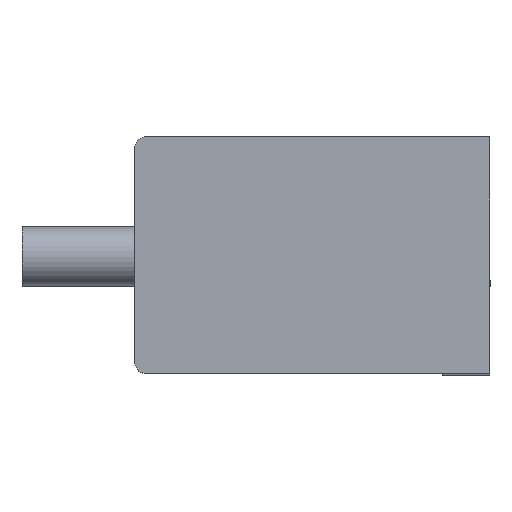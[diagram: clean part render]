
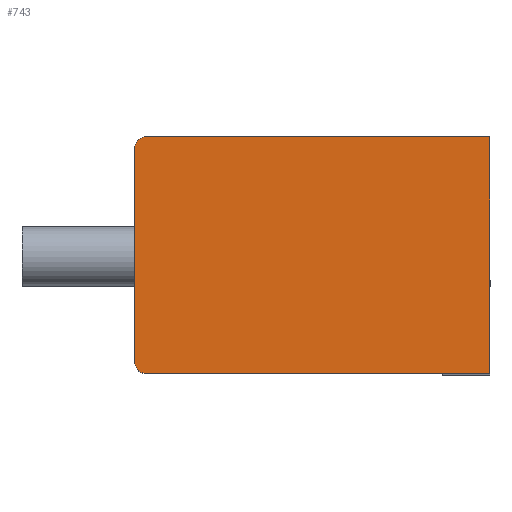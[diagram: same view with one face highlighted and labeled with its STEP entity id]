
A CAD part, top view. The second image highlights one B-rep face of the part: STEP entity #743.
In plain terms, the highlighted planar face has unit normal (0, 0, 1).
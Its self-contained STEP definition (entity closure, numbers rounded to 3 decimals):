
#660=AXIS2_PLACEMENT_3D('Circle Axis2P3D',#658,#659,$) ;
#721=AXIS2_PLACEMENT_3D('Plane Axis2P3D',#718,#719,#720) ;
#732=AXIS2_PLACEMENT_3D('Circle Axis2P3D',#730,#731,$) ;
#528=CARTESIAN_POINT('Vertex',(26.005,20.,1.516)) ;
#533=CARTESIAN_POINT('Line Origine',(26.005,10.,1.516)) ;
#537=CARTESIAN_POINT('Vertex',(26.005,0.,1.516)) ;
#630=CARTESIAN_POINT('Vertex',(-2.995,0.,1.516)) ;
#638=CARTESIAN_POINT('Line Origine',(11.505,0.,1.516)) ;
#658=CARTESIAN_POINT('Axis2P3D Location',(-2.995,1.,1.516)) ;
#662=CARTESIAN_POINT('Vertex',(-3.995,1.,1.516)) ;
#689=CARTESIAN_POINT('Line Origine',(11.505,20.,1.516)) ;
#693=CARTESIAN_POINT('Vertex',(-2.995,20.,1.516)) ;
#718=CARTESIAN_POINT('Axis2P3D Location',(-3.995,0.,1.516)) ;
#723=CARTESIAN_POINT('Line Origine',(-3.995,10.,1.516)) ;
#727=CARTESIAN_POINT('Vertex',(-3.995,19.,1.516)) ;
#730=CARTESIAN_POINT('Axis2P3D Location',(-2.995,19.,1.516)) ;
#534=DIRECTION('Vector Direction',(0.,1.,0.)) ;
#639=DIRECTION('Vector Direction',(1.,0.,0.)) ;
#659=DIRECTION('Axis2P3D Direction',(0.,0.,1.)) ;
#690=DIRECTION('Vector Direction',(1.,0.,0.)) ;
#719=DIRECTION('Axis2P3D Direction',(-0.,0.,1.)) ;
#720=DIRECTION('Axis2P3D XDirection',(1.,-0.,0.)) ;
#724=DIRECTION('Vector Direction',(0.,1.,0.)) ;
#731=DIRECTION('Axis2P3D Direction',(-0.,0.,1.)) ;
#535=VECTOR('Line Direction',#534,1.) ;
#640=VECTOR('Line Direction',#639,1.) ;
#691=VECTOR('Line Direction',#690,1.) ;
#725=VECTOR('Line Direction',#724,1.) ;
#736=ORIENTED_EDGE('',*,*,#729,.F.) ;
#737=ORIENTED_EDGE('',*,*,#664,.F.) ;
#738=ORIENTED_EDGE('',*,*,#642,.T.) ;
#739=ORIENTED_EDGE('',*,*,#539,.T.) ;
#740=ORIENTED_EDGE('',*,*,#695,.F.) ;
#741=ORIENTED_EDGE('',*,*,#734,.F.) ;
#743=ADVANCED_FACE('\X2\96F64EF651E04F554F53\X0\',(#742),#722,.T.) ;
#661=CIRCLE('generated circle',#660,1.) ;
#733=CIRCLE('generated circle',#732,1.) ;
#539=EDGE_CURVE('',#538,#529,#536,.T.) ;
#642=EDGE_CURVE('',#631,#538,#641,.T.) ;
#664=EDGE_CURVE('',#631,#663,#661,.F.) ;
#695=EDGE_CURVE('',#694,#529,#692,.T.) ;
#729=EDGE_CURVE('',#663,#728,#726,.T.) ;
#734=EDGE_CURVE('',#728,#694,#733,.F.) ;
#735=EDGE_LOOP('',(#736,#737,#738,#739,#740,#741)) ;
#742=FACE_OUTER_BOUND('',#735,.T.) ;
#536=LINE('Line',#533,#535) ;
#641=LINE('Line',#638,#640) ;
#692=LINE('Line',#689,#691) ;
#726=LINE('Line',#723,#725) ;
#722=PLANE('Plane',#721) ;
#529=VERTEX_POINT('',#528) ;
#538=VERTEX_POINT('',#537) ;
#631=VERTEX_POINT('',#630) ;
#663=VERTEX_POINT('',#662) ;
#694=VERTEX_POINT('',#693) ;
#728=VERTEX_POINT('',#727) ;
